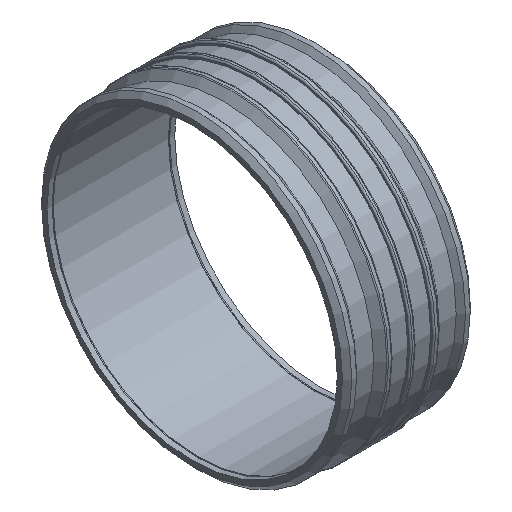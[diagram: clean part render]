
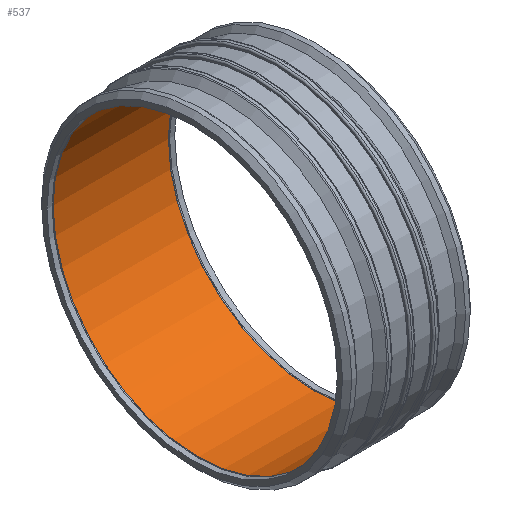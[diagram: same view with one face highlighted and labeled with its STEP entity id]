
A CAD part, isometric view. The second image highlights one B-rep face of the part: STEP entity #537.
In plain terms, the highlighted cylindrical face has radius 500 mm (diameter 1000 mm), a full revolution.
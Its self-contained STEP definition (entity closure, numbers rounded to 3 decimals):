
#45=CYLINDRICAL_SURFACE('',#630,500.);
#87=FACE_BOUND('',#230,.T.);
#141=FACE_OUTER_BOUND('',#229,.T.);
#229=EDGE_LOOP('',(#471));
#230=EDGE_LOOP('',(#472));
#279=CIRCLE('',#629,500.);
#280=CIRCLE('',#631,500.);
#325=VERTEX_POINT('',#1030);
#326=VERTEX_POINT('',#1033);
#375=EDGE_CURVE('',#325,#325,#279,.T.);
#376=EDGE_CURVE('',#326,#326,#280,.T.);
#471=ORIENTED_EDGE('',*,*,#375,.T.);
#472=ORIENTED_EDGE('',*,*,#376,.F.);
#537=ADVANCED_FACE('',(#141,#87),#45,.F.);
#629=AXIS2_PLACEMENT_3D('',#1031,#811,#812);
#630=AXIS2_PLACEMENT_3D('',#1032,#813,#814);
#631=AXIS2_PLACEMENT_3D('',#1034,#815,#816);
#811=DIRECTION('center_axis',(1.,0.,0.));
#812=DIRECTION('ref_axis',(0.,0.,-1.));
#813=DIRECTION('center_axis',(1.,0.,0.));
#814=DIRECTION('ref_axis',(0.,1.,0.));
#815=DIRECTION('center_axis',(1.,0.,0.));
#816=DIRECTION('ref_axis',(0.,0.,-1.));
#1030=CARTESIAN_POINT('',(198.844,500.,0.));
#1031=CARTESIAN_POINT('Origin',(198.844,0.,0.));
#1032=CARTESIAN_POINT('Origin',(-99.422,0.,0.));
#1033=CARTESIAN_POINT('',(-198.844,500.,0.));
#1034=CARTESIAN_POINT('Origin',(-198.844,0.,0.));
